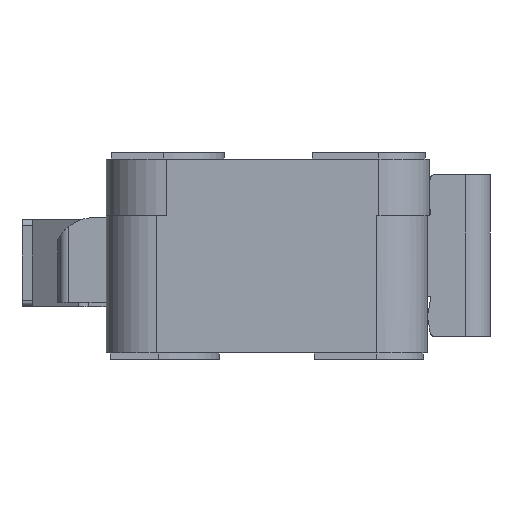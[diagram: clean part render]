
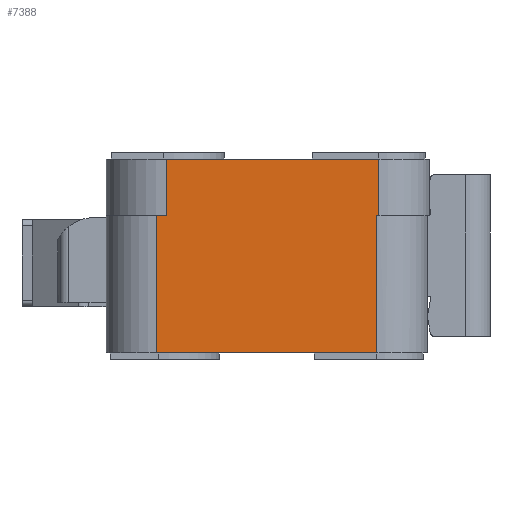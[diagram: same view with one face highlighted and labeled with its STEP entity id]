
A CAD part, left-side view. The second image highlights one B-rep face of the part: STEP entity #7388.
In plain terms, the highlighted planar face has unit normal (-1, 0, 0).
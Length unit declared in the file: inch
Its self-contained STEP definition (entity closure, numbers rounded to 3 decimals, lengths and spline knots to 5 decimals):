
#580=DIRECTION('',(0.,0.,1.));
#581=VECTOR('',#580,2.8);
#582=CARTESIAN_POINT('',(0.00075,2.40003,0.));
#583=LINE('',#582,#581);
#584=DIRECTION('',(0.,0.,1.));
#585=VECTOR('',#584,2.8);
#586=CARTESIAN_POINT('',(0.,12.9,0.));
#587=LINE('',#586,#585);
#588=DIRECTION('',(0.,-1.,0.));
#589=VECTOR('',#588,10.5);
#590=CARTESIAN_POINT('',(0.,12.9,2.8));
#591=LINE('',#590,#589);
#592=DIRECTION('',(0.,0.,-1.));
#593=VECTOR('',#592,6.8);
#594=CARTESIAN_POINT('',(0.,2.5,0.));
#595=LINE('',#594,#593);
#596=DIRECTION('',(0.,1.,0.));
#597=VECTOR('',#596,10.9);
#598=CARTESIAN_POINT('',(0.,2.5,-6.8));
#599=LINE('',#598,#597);
#605=DIRECTION('',(0.,1.,0.));
#606=VECTOR('',#605,0.5);
#607=CARTESIAN_POINT('',(0.,12.9,0.));
#608=LINE('',#607,#606);
#1446=DIRECTION('',(0.,0.,-1.));
#1447=VECTOR('',#1446,6.8);
#1448=CARTESIAN_POINT('',(0.,13.4,0.));
#1449=LINE('',#1448,#1447);
#1459=CARTESIAN_POINT('',(0.00025,2.44993,
0.));
#1460=CARTESIAN_POINT('',(0.00025,2.45826,
0.));
#1461=CARTESIAN_POINT('',(-0.00013,2.47493,
0.));
#1462=CARTESIAN_POINT('',(0.,2.49164,0.));
#1463=CARTESIAN_POINT('',(0.,2.5,0.));
#1465=CARTESIAN_POINT('',(0.00075,2.40003,0.));
#1466=CARTESIAN_POINT('',(0.00075,2.40837,0.));
#1467=CARTESIAN_POINT('',(-0.0005,2.42499,
0.));
#1468=CARTESIAN_POINT('',(0.00025,2.44163,
0.));
#1469=CARTESIAN_POINT('',(0.00025,2.44993,
0.));
#4892=CARTESIAN_POINT('',(0.,13.4,-6.8));
#4893=VERTEX_POINT('',#4892);
#4894=CARTESIAN_POINT('',(0.,2.5,-6.8));
#4895=VERTEX_POINT('',#4894);
#4926=CARTESIAN_POINT('',(0.,13.4,0.));
#4927=VERTEX_POINT('',#4926);
#5476=CARTESIAN_POINT('',(0.,12.9,2.8));
#5478=VERTEX_POINT('',#5476);
#5490=CARTESIAN_POINT('',(0.,2.4,2.8));
#5491=VERTEX_POINT('',#5490);
#5878=CARTESIAN_POINT('',(0.002,2.40008,
0.));
#5879=VERTEX_POINT('',#5878);
#5880=VERTEX_POINT('',#1469);
#5881=VERTEX_POINT('',#1463);
#5911=CARTESIAN_POINT('',(0.,12.9,0.));
#5913=VERTEX_POINT('',#5911);
#7364=CARTESIAN_POINT('',(0.,7.95,-3.4));
#7365=DIRECTION('',(1.,0.,0.));
#7366=DIRECTION('',(0.,-1.,0.));
#7367=AXIS2_PLACEMENT_3D('',#7364,#7365,#7366);
#7368=PLANE('',#7367);
#7370=ORIENTED_EDGE('',*,*,#7369,.F.);
#7372=ORIENTED_EDGE('',*,*,#7371,.T.);
#7374=ORIENTED_EDGE('',*,*,#7373,.T.);
#7375=ORIENTED_EDGE('',*,*,#7355,.F.);
#7377=ORIENTED_EDGE('',*,*,#7376,.T.);
#7379=ORIENTED_EDGE('',*,*,#7378,.T.);
#7381=ORIENTED_EDGE('',*,*,#7380,.T.);
#7383=ORIENTED_EDGE('',*,*,#7382,.T.);
#7385=ORIENTED_EDGE('',*,*,#7384,.F.);
#7386=EDGE_LOOP('',(#7370,#7372,#7374,#7375,#7377,#7379,#7381,#7383,#7385));
#7387=FACE_OUTER_BOUND('',#7386,.F.);
#7388=ADVANCED_FACE('',(#7387),#7368,.F.);
#1464=B_SPLINE_CURVE_WITH_KNOTS('',3,(#1459,#1460,#1461,#1462,#1463),
.UNSPECIFIED.,.F.,.F.,(4,1,4),(0.,0.5,1.),.UNSPECIFIED.);
#1470=B_SPLINE_CURVE_WITH_KNOTS('',3,(#1465,#1466,#1467,#1468,#1469),
.UNSPECIFIED.,.F.,.F.,(4,1,4),(0.,0.5,1.),.UNSPECIFIED.);
#7355=EDGE_CURVE('',#5879,#5491,#583,.T.);
#7369=EDGE_CURVE('',#5913,#4927,#608,.T.);
#7371=EDGE_CURVE('',#5913,#5478,#587,.T.);
#7373=EDGE_CURVE('',#5478,#5491,#591,.T.);
#7376=EDGE_CURVE('',#5879,#5880,#1470,.T.);
#7378=EDGE_CURVE('',#5880,#5881,#1464,.T.);
#7380=EDGE_CURVE('',#5881,#4895,#595,.T.);
#7382=EDGE_CURVE('',#4895,#4893,#599,.T.);
#7384=EDGE_CURVE('',#4927,#4893,#1449,.T.);
